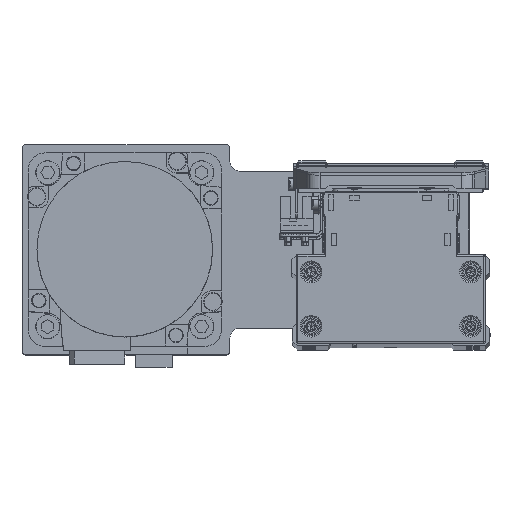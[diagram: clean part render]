
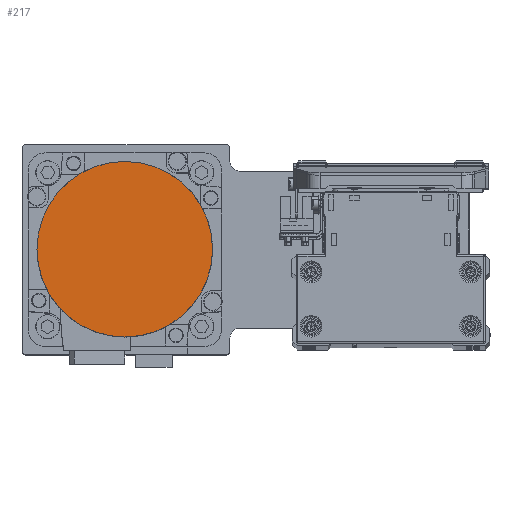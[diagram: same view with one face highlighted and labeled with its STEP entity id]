
A CAD part, top view. The second image highlights one B-rep face of the part: STEP entity #217.
In plain terms, the highlighted planar face has unit normal (0, 0, 1) as drawn and (0, 0, -1) by its records, which use the part's own axes.
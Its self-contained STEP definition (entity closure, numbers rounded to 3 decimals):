
#217 = ADVANCED_FACE ( 'NONE', ( #18441 ), #30808, .F. ) ;
#2004 = VERTEX_POINT ( 'NONE', #7770 ) ;
#3019 = CARTESIAN_POINT ( 'NONE',  ( 0., 0., -122.2 ) ) ;
#3562 = VERTEX_POINT ( 'NONE', #27789 ) ;
#5263 = CIRCLE ( 'NONE', #27907, 36.3 ) ;
#5466 = CIRCLE ( 'NONE', #10662, 36.3 ) ;
#7770 = CARTESIAN_POINT ( 'NONE',  ( 0., -36.3, -122.2 ) ) ;
#8780 = DIRECTION ( 'NONE',  ( 0., 0., 1. ) ) ;
#10662 = AXIS2_PLACEMENT_3D ( 'NONE', #13187, #25538, #37916 ) ;
#13187 = CARTESIAN_POINT ( 'NONE',  ( 0., 0., -122.2 ) ) ;
#15406 = DIRECTION ( 'NONE',  ( 0., 0., 1. ) ) ;
#18441 = FACE_OUTER_BOUND ( 'NONE', #19350, .T. ) ;
#18878 = EDGE_CURVE ( 'NONE', #2004, #3562, #5263, .T. ) ;
#19350 = EDGE_LOOP ( 'NONE', ( #38816, #28596 ) ) ;
#21123 = DIRECTION ( 'NONE',  ( 0., -1., 0. ) ) ;
#22395 = EDGE_CURVE ( 'NONE', #3562, #2004, #5466, .T. ) ;
#25538 = DIRECTION ( 'NONE',  ( 0., 0., 1. ) ) ;
#27739 = DIRECTION ( 'NONE',  ( 1., 0., 0. ) ) ;
#27789 = CARTESIAN_POINT ( 'NONE',  ( 0., 36.3, -122.2 ) ) ;
#27907 = AXIS2_PLACEMENT_3D ( 'NONE', #36549, #8780, #21123 ) ;
#28424 = AXIS2_PLACEMENT_3D ( 'NONE', #3019, #15406, #27739 ) ;
#28596 = ORIENTED_EDGE ( 'NONE', *, *, #18878, .F. ) ;
#30808 = PLANE ( 'NONE',  #28424 ) ;
#36549 = CARTESIAN_POINT ( 'NONE',  ( 0., 0., -122.2 ) ) ;
#37916 = DIRECTION ( 'NONE',  ( 0., 1., 0. ) ) ;
#38816 = ORIENTED_EDGE ( 'NONE', *, *, #22395, .F. ) ;
